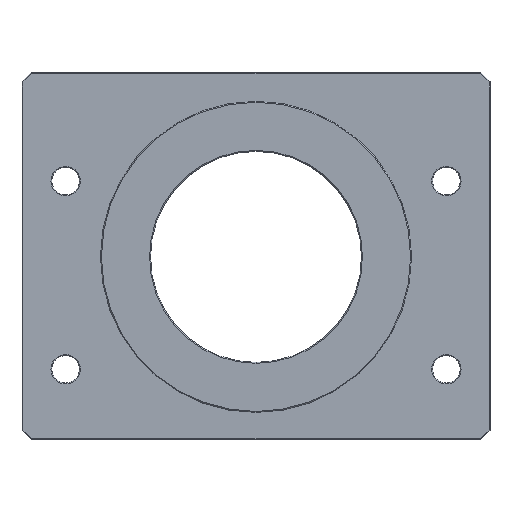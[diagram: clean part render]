
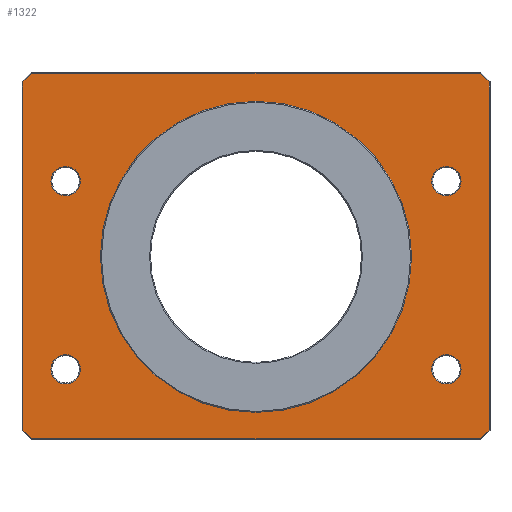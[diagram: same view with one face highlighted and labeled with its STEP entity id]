
A CAD part, top view. The second image highlights one B-rep face of the part: STEP entity #1322.
In plain terms, the highlighted planar face has unit normal (0, 0, 1).
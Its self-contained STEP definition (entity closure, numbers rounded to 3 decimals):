
#195=CARTESIAN_POINT('',(0.,0.,10.));
#196=DIRECTION('',(0.,0.,1.));
#197=DIRECTION('',(1.,0.,0.));
#198=AXIS2_PLACEMENT_3D('',#195,#196,#197);
#200=CARTESIAN_POINT('',(0.,0.,10.));
#201=DIRECTION('',(0.,0.,1.));
#202=DIRECTION('',(-1.,0.,0.));
#203=AXIS2_PLACEMENT_3D('',#200,#201,#202);
#205=CARTESIAN_POINT('',(-41.5,16.5,10.));
#206=DIRECTION('',(0.,0.,-1.));
#207=DIRECTION('',(-1.,0.,0.));
#208=AXIS2_PLACEMENT_3D('',#205,#206,#207);
#210=CARTESIAN_POINT('',(-41.5,16.5,10.));
#211=DIRECTION('',(0.,0.,-1.));
#212=DIRECTION('',(1.,0.,0.));
#213=AXIS2_PLACEMENT_3D('',#210,#211,#212);
#215=CARTESIAN_POINT('',(-41.5,-24.5,10.));
#216=DIRECTION('',(0.,0.,-1.));
#217=DIRECTION('',(-1.,0.,0.));
#218=AXIS2_PLACEMENT_3D('',#215,#216,#217);
#220=CARTESIAN_POINT('',(-41.5,-24.5,10.));
#221=DIRECTION('',(0.,0.,-1.));
#222=DIRECTION('',(1.,0.,0.));
#223=AXIS2_PLACEMENT_3D('',#220,#221,#222);
#225=CARTESIAN_POINT('',(41.5,-24.5,10.));
#226=DIRECTION('',(0.,0.,-1.));
#227=DIRECTION('',(-1.,0.,0.));
#228=AXIS2_PLACEMENT_3D('',#225,#226,#227);
#230=CARTESIAN_POINT('',(41.5,-24.5,10.));
#231=DIRECTION('',(0.,0.,-1.));
#232=DIRECTION('',(1.,0.,0.));
#233=AXIS2_PLACEMENT_3D('',#230,#231,#232);
#235=CARTESIAN_POINT('',(41.5,16.5,10.));
#236=DIRECTION('',(0.,0.,-1.));
#237=DIRECTION('',(-1.,0.,0.));
#238=AXIS2_PLACEMENT_3D('',#235,#236,#237);
#240=CARTESIAN_POINT('',(41.5,16.5,10.));
#241=DIRECTION('',(0.,0.,-1.));
#242=DIRECTION('',(1.,0.,0.));
#243=AXIS2_PLACEMENT_3D('',#240,#241,#242);
#245=DIRECTION('',(-0.707,-0.707,0.));
#246=VECTOR('',#245,2.663);
#247=CARTESIAN_POINT('',(-48.917,40.,10.));
#248=LINE('',#247,#246);
#249=DIRECTION('',(-1.,0.,0.));
#250=VECTOR('',#249,97.834);
#251=CARTESIAN_POINT('',(48.917,40.,10.));
#252=LINE('',#251,#250);
#253=DIRECTION('',(-0.707,0.707,0.));
#254=VECTOR('',#253,2.663);
#255=CARTESIAN_POINT('',(50.8,38.117,10.));
#256=LINE('',#255,#254);
#257=DIRECTION('',(0.,1.,0.));
#258=VECTOR('',#257,75.834);
#259=CARTESIAN_POINT('',(50.8,-37.717,10.));
#260=LINE('',#259,#258);
#261=DIRECTION('',(0.707,0.707,0.));
#262=VECTOR('',#261,2.663);
#263=CARTESIAN_POINT('',(48.917,-39.6,10.));
#264=LINE('',#263,#262);
#265=DIRECTION('',(1.,0.,0.));
#266=VECTOR('',#265,97.834);
#267=CARTESIAN_POINT('',(-48.917,-39.6,10.));
#268=LINE('',#267,#266);
#269=DIRECTION('',(0.707,-0.707,0.));
#270=VECTOR('',#269,2.663);
#271=CARTESIAN_POINT('',(-50.8,-37.717,10.));
#272=LINE('',#271,#270);
#273=DIRECTION('',(0.,-1.,0.));
#274=VECTOR('',#273,75.834);
#275=CARTESIAN_POINT('',(-50.8,38.117,10.));
#276=LINE('',#275,#274);
#791=CARTESIAN_POINT('',(33.9,0.,10.));
#792=CARTESIAN_POINT('',(-33.9,0.,10.));
#793=VERTEX_POINT('',#791);
#794=VERTEX_POINT('',#792);
#795=CARTESIAN_POINT('',(-44.7,16.5,10.));
#796=CARTESIAN_POINT('',(-38.3,16.5,10.));
#797=VERTEX_POINT('',#795);
#798=VERTEX_POINT('',#796);
#803=CARTESIAN_POINT('',(-44.7,-24.5,10.));
#804=CARTESIAN_POINT('',(-38.3,-24.5,10.));
#805=VERTEX_POINT('',#803);
#806=VERTEX_POINT('',#804);
#811=CARTESIAN_POINT('',(38.3,-24.5,10.));
#812=CARTESIAN_POINT('',(44.7,-24.5,10.));
#813=VERTEX_POINT('',#811);
#814=VERTEX_POINT('',#812);
#819=CARTESIAN_POINT('',(38.3,16.5,10.));
#820=CARTESIAN_POINT('',(44.7,16.5,10.));
#821=VERTEX_POINT('',#819);
#822=VERTEX_POINT('',#820);
#827=CARTESIAN_POINT('',(-48.917,40.,10.));
#828=CARTESIAN_POINT('',(-50.8,38.117,10.));
#829=VERTEX_POINT('',#827);
#830=VERTEX_POINT('',#828);
#837=CARTESIAN_POINT('',(-50.8,-37.717,10.));
#838=VERTEX_POINT('',#837);
#841=CARTESIAN_POINT('',(-48.917,-39.6,10.));
#842=VERTEX_POINT('',#841);
#845=CARTESIAN_POINT('',(48.917,-39.6,10.));
#846=VERTEX_POINT('',#845);
#849=CARTESIAN_POINT('',(50.8,-37.717,10.));
#850=VERTEX_POINT('',#849);
#853=CARTESIAN_POINT('',(50.8,38.117,10.));
#854=VERTEX_POINT('',#853);
#857=CARTESIAN_POINT('',(48.917,40.,10.));
#858=VERTEX_POINT('',#857);
#1275=CARTESIAN_POINT('',(0.,0.,10.));
#1276=DIRECTION('',(0.,0.,1.));
#1277=DIRECTION('',(1.,0.,0.));
#1278=AXIS2_PLACEMENT_3D('',#1275,#1276,#1277);
#1279=PLANE('',#1278);
#1280=ORIENTED_EDGE('',*,*,#1265,.F.);
#1282=ORIENTED_EDGE('',*,*,#1281,.F.);
#1284=ORIENTED_EDGE('',*,*,#1283,.F.);
#1285=ORIENTED_EDGE('',*,*,#1085,.F.);
#1286=ORIENTED_EDGE('',*,*,#1101,.F.);
#1287=ORIENTED_EDGE('',*,*,#1170,.F.);
#1288=ORIENTED_EDGE('',*,*,#1185,.F.);
#1289=ORIENTED_EDGE('',*,*,#1254,.F.);
#1290=EDGE_LOOP('',(#1280,#1282,#1284,#1285,#1286,#1287,#1288,#1289));
#1291=FACE_OUTER_BOUND('',#1290,.F.);
#1293=ORIENTED_EDGE('',*,*,#1292,.F.);
#1295=ORIENTED_EDGE('',*,*,#1294,.F.);
#1296=EDGE_LOOP('',(#1293,#1295));
#1297=FACE_BOUND('',#1296,.F.);
#1299=ORIENTED_EDGE('',*,*,#1298,.F.);
#1301=ORIENTED_EDGE('',*,*,#1300,.F.);
#1302=EDGE_LOOP('',(#1299,#1301));
#1303=FACE_BOUND('',#1302,.F.);
#1305=ORIENTED_EDGE('',*,*,#1304,.F.);
#1307=ORIENTED_EDGE('',*,*,#1306,.F.);
#1308=EDGE_LOOP('',(#1305,#1307));
#1309=FACE_BOUND('',#1308,.F.);
#1311=ORIENTED_EDGE('',*,*,#1310,.F.);
#1313=ORIENTED_EDGE('',*,*,#1312,.F.);
#1314=EDGE_LOOP('',(#1311,#1313));
#1315=FACE_BOUND('',#1314,.F.);
#1317=ORIENTED_EDGE('',*,*,#1316,.T.);
#1319=ORIENTED_EDGE('',*,*,#1318,.T.);
#1320=EDGE_LOOP('',(#1317,#1319));
#1321=FACE_BOUND('',#1320,.F.);
#199=CIRCLE('',#198,33.9);
#204=CIRCLE('',#203,33.9);
#209=CIRCLE('',#208,3.2);
#214=CIRCLE('',#213,3.2);
#219=CIRCLE('',#218,3.2);
#224=CIRCLE('',#223,3.2);
#229=CIRCLE('',#228,3.2);
#234=CIRCLE('',#233,3.2);
#239=CIRCLE('',#238,3.2);
#244=CIRCLE('',#243,3.2);
#1085=EDGE_CURVE('',#850,#854,#260,.T.);
#1101=EDGE_CURVE('',#846,#850,#264,.T.);
#1170=EDGE_CURVE('',#842,#846,#268,.T.);
#1185=EDGE_CURVE('',#838,#842,#272,.T.);
#1254=EDGE_CURVE('',#830,#838,#276,.T.);
#1265=EDGE_CURVE('',#829,#830,#248,.T.);
#1281=EDGE_CURVE('',#858,#829,#252,.T.);
#1283=EDGE_CURVE('',#854,#858,#256,.T.);
#1292=EDGE_CURVE('',#797,#798,#209,.T.);
#1294=EDGE_CURVE('',#798,#797,#214,.T.);
#1298=EDGE_CURVE('',#805,#806,#219,.T.);
#1300=EDGE_CURVE('',#806,#805,#224,.T.);
#1304=EDGE_CURVE('',#813,#814,#229,.T.);
#1306=EDGE_CURVE('',#814,#813,#234,.T.);
#1310=EDGE_CURVE('',#821,#822,#239,.T.);
#1312=EDGE_CURVE('',#822,#821,#244,.T.);
#1316=EDGE_CURVE('',#793,#794,#199,.T.);
#1318=EDGE_CURVE('',#794,#793,#204,.T.);
#1322=ADVANCED_FACE('',(#1291,#1297,#1303,#1309,#1315,#1321),#1279,.T.);
